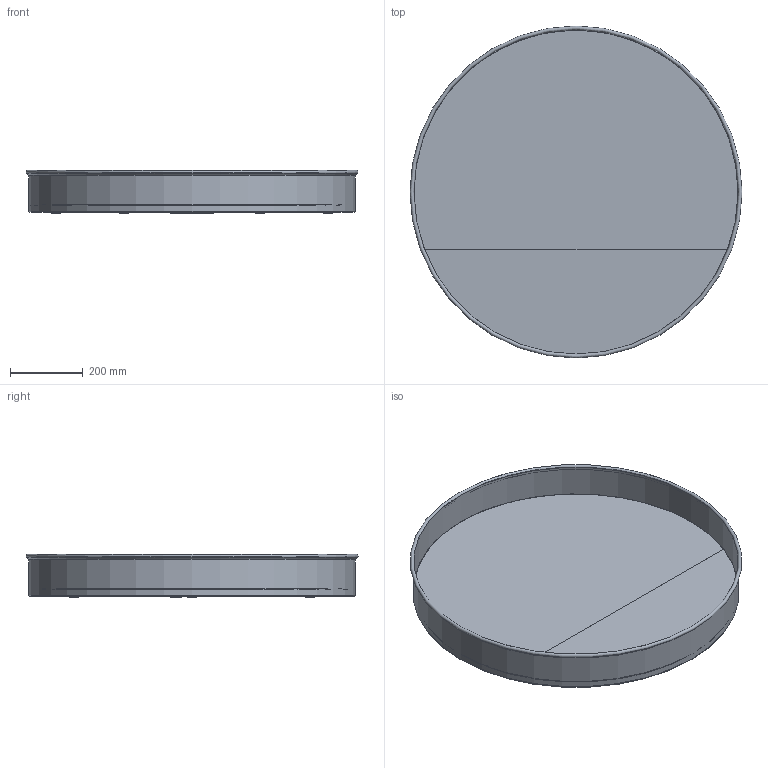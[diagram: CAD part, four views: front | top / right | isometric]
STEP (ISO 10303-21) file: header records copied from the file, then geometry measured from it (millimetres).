
FILE_DESCRIPTION(/* description */ (''),/* implementation_level */ '2;1');
FILE_NAME(/* name */ 'C:\AutodeskVault\AreaLavoro\Progetti\SoVeT Italia\3. Specchi_Mirrors\Horizon\Web file\Horizon Web\P5326.stp',/* time_stamp */ '2015-01-21T09:04:41+01:00',/* author */ ('Gianluca'),/* organization */ ('So.Ve.T. s.r.l.'),/* preprocessor_version */ 'ST-DEVELOPER v15.2',/* originating_system */ 'Autodesk Inventor 2014',/* authorisation */ 'IL PROGETTO E'' DI ESCLUSIVA PROPRIETA'' DELLA SO.VE.T. srl. E'' VIETATA OGNI RIPRODUZIONE TOTALE O PARZIALE E QUALSIASI UTILIZZO NON AUTORIZZATO.');
FILE_SCHEMA (('AUTOMOTIVE_DESIGN { 1 0 10303 214 3 1 1 }'));
Length unit declared in the file: centimetre
Products named in the file (1): P5326 Contorno semplificato
Bounding box: 914.99 x 914.99 x 119 mm (x, y, z)
Volume: 4516257.7 mm3; surface area: 4474239 mm2
Topology: 3 solids, 4 shells, 68 faces, 141 edges, 91 vertices
Faces by surface type: plane 34, cylinder 25, cone 5, torus 4
Full cylindrical faces by diameter (mm): 3 x6, 6 x3, 25 x6, 200 x1, 893 x1, 895 x2, 899 x2
Entity records: 1679 total; most frequent: DIRECTION 294, CARTESIAN_POINT 245, ORIENTED_EDGE 198, AXIS2_PLACEMENT_3D 127, EDGE_LOOP 118, EDGE_CURVE 98, VERTEX_POINT 78, ADVANCED_FACE 68
